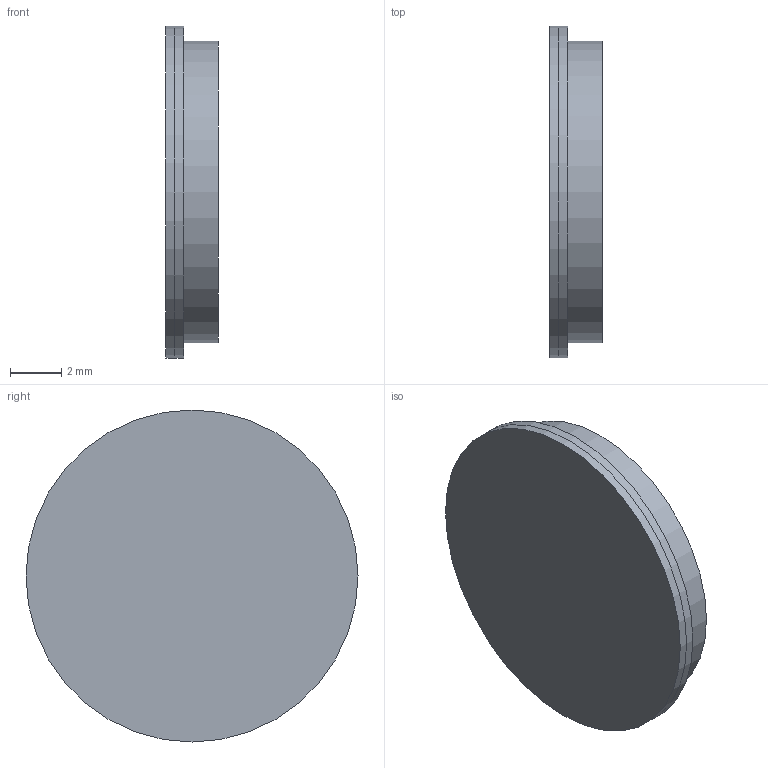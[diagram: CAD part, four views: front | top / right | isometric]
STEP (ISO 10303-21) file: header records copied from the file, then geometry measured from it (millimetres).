
FILE_DESCRIPTION(('Open CASCADE Model'),'2;1');
FILE_NAME('Open CASCADE Shape Model','2026-09-08T13:32:06',('Author'),( 'Open CASCADE'),'Open CASCADE STEP processor 7.7','Open CASCADE 7.7' ,'Unknown');
FILE_SCHEMA(('AUTOMOTIVE_DESIGN { 1 0 10303 214 1 1 1 1 }'));
Length unit declared in the file: millimetre
Products named in the file (1): Open CASCADE STEP translator 7.7 1
Bounding box: 2.05 x 13 x 13 mm (x, y, z)
Volume: 240.5 mm3; surface area: 344.1 mm2
Topology: 1 solids, 1 shells, 6 faces, 8 edges, 5 vertices
Faces by surface type: cylinder 3, plane 3
Full cylindrical faces by diameter (mm): 11.8 x1, 13 x2
Entity records: 242 total; most frequent: DIRECTION 42, CARTESIAN_POINT 37, ORIENTED_EDGE 16, PCURVE 16, DEFINITIONAL_REPRESENTATION 16, LINE 14, VECTOR 14, AXIS2_PLACEMENT_3D 12
